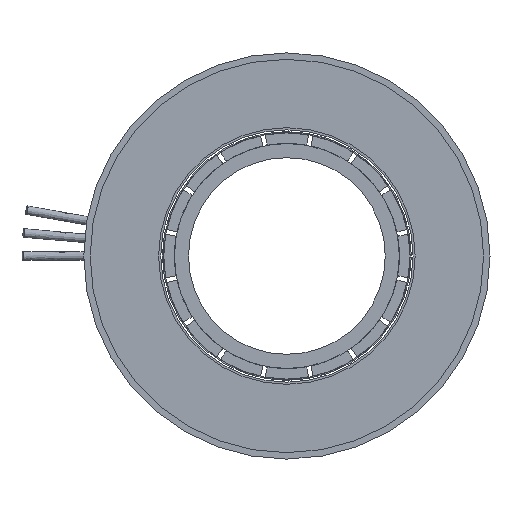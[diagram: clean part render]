
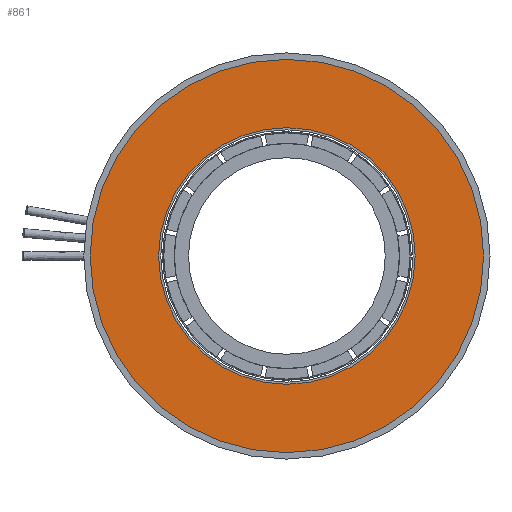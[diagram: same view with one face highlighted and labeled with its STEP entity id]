
A CAD part, left-side view. The second image highlights one B-rep face of the part: STEP entity #861.
In plain terms, the highlighted planar face has unit normal (-1, 0, 0).
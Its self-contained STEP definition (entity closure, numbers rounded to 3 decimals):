
#31 = FACE_OUTER_BOUND ( 'NONE', #2203, .T. ) ;
#109 = EDGE_CURVE ( 'NONE', #390, #2528, #2315, .T. ) ;
#166 = EDGE_LOOP ( 'NONE', ( #457, #2933 ) ) ;
#259 = VERTEX_POINT ( 'NONE', #1244 ) ;
#283 = DIRECTION ( 'NONE',  ( 1., 0., 0. ) ) ;
#329 = EDGE_CURVE ( 'NONE', #3050, #259, #2190, .T. ) ;
#390 = VERTEX_POINT ( 'NONE', #1468 ) ;
#457 = ORIENTED_EDGE ( 'NONE', *, *, #329, .F. ) ;
#493 = CARTESIAN_POINT ( 'NONE',  ( 0., 0., 46. ) ) ;
#704 = CIRCLE ( 'NONE', #1803, 46. ) ;
#709 = AXIS2_PLACEMENT_3D ( 'NONE', #1423, #2657, #1165 ) ;
#861 = ADVANCED_FACE ( 'NONE', ( #2272, #31 ), #2450, .F. ) ;
#888 = CARTESIAN_POINT ( 'NONE',  ( 0., 0., 30. ) ) ;
#1123 = DIRECTION ( 'NONE',  ( 0., 0., 1. ) ) ;
#1165 = DIRECTION ( 'NONE',  ( 0., 0., 1. ) ) ;
#1194 = ORIENTED_EDGE ( 'NONE', *, *, #2084, .T. ) ;
#1244 = CARTESIAN_POINT ( 'NONE',  ( 0., 0., -30. ) ) ;
#1254 = EDGE_CURVE ( 'NONE', #259, #3050, #2733, .T. ) ;
#1423 = CARTESIAN_POINT ( 'NONE',  ( 0., 0., 0. ) ) ;
#1468 = CARTESIAN_POINT ( 'NONE',  ( 0., 0., -46. ) ) ;
#1472 = ORIENTED_EDGE ( 'NONE', *, *, #109, .T. ) ;
#1803 = AXIS2_PLACEMENT_3D ( 'NONE', #2513, #1970, #2479 ) ;
#1970 = DIRECTION ( 'NONE',  ( -1., 0., 0. ) ) ;
#2084 = EDGE_CURVE ( 'NONE', #2528, #390, #704, .T. ) ;
#2089 = AXIS2_PLACEMENT_3D ( 'NONE', #2904, #2403, #2144 ) ;
#2144 = DIRECTION ( 'NONE',  ( 0., 0., 1. ) ) ;
#2190 = CIRCLE ( 'NONE', #2606, 30. ) ;
#2203 = EDGE_LOOP ( 'NONE', ( #1194, #1472 ) ) ;
#2272 = FACE_BOUND ( 'NONE', #166, .T. ) ;
#2315 = CIRCLE ( 'NONE', #709, 46. ) ;
#2324 = AXIS2_PLACEMENT_3D ( 'NONE', #2730, #283, #3000 ) ;
#2389 = DIRECTION ( 'NONE',  ( -1., 0., 0. ) ) ;
#2403 = DIRECTION ( 'NONE',  ( -1., 0., 0. ) ) ;
#2450 = PLANE ( 'NONE',  #2324 ) ;
#2479 = DIRECTION ( 'NONE',  ( 0., 0., 1. ) ) ;
#2513 = CARTESIAN_POINT ( 'NONE',  ( 0., 0., 0. ) ) ;
#2528 = VERTEX_POINT ( 'NONE', #493 ) ;
#2606 = AXIS2_PLACEMENT_3D ( 'NONE', #2637, #2389, #1123 ) ;
#2637 = CARTESIAN_POINT ( 'NONE',  ( 0., 0., 0. ) ) ;
#2657 = DIRECTION ( 'NONE',  ( -1., 0., 0. ) ) ;
#2730 = CARTESIAN_POINT ( 'NONE',  ( 0., 46., 0. ) ) ;
#2733 = CIRCLE ( 'NONE', #2089, 30. ) ;
#2904 = CARTESIAN_POINT ( 'NONE',  ( 0., 0., 0. ) ) ;
#2933 = ORIENTED_EDGE ( 'NONE', *, *, #1254, .F. ) ;
#3000 = DIRECTION ( 'NONE',  ( 0., 0., -1. ) ) ;
#3050 = VERTEX_POINT ( 'NONE', #888 ) ;
